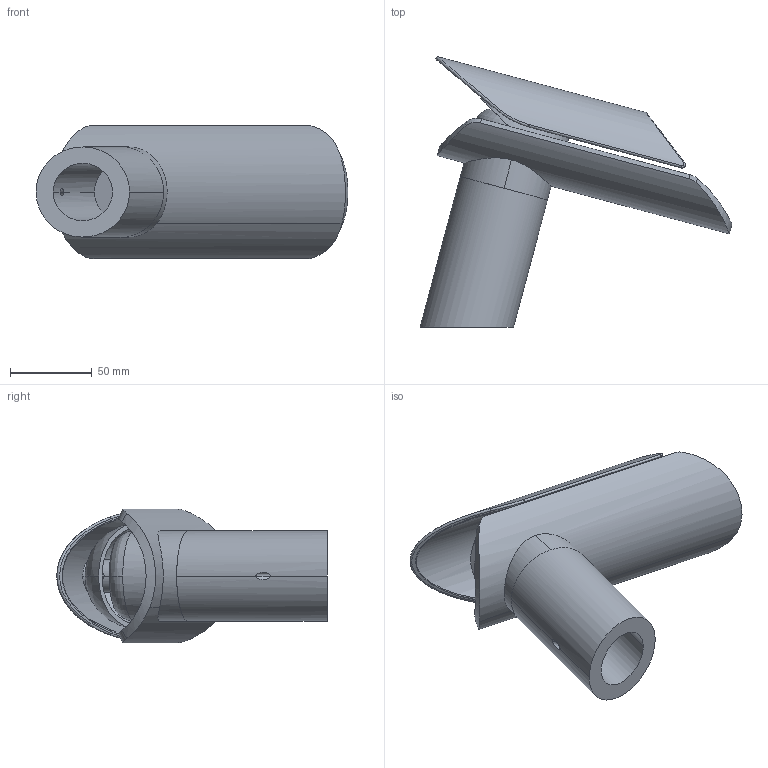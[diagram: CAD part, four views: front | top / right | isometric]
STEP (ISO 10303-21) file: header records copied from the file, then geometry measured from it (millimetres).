
FILE_DESCRIPTION(('CoCreate Modeling STEP Export'),'2;1');
FILE_NAME('73.211.stp','2012-06-04T 9:52:06',(''),(''),'CoCreate Modeling STEP processor for AP214 (Solid Model)','CoCreate Modeling 17.0 01-Apr-2010 (C) Parametric Technology GmbH','');
FILE_SCHEMA(('AUTOMOTIVE_DESIGN { 1 0 10303 214 1 1 1 1 }'));
Length unit declared in the file: millimetre
Products named in the file (2): CORPO
Assembly tree (1 placements, depth 2):
  CORPO
    CORPO
Bounding box: 190.19 x 164.81 x 81.57 mm (x, y, z)
Volume: 349062.1 mm3; surface area: 113789.4 mm2
Topology: 1 solids, 2 shells, 138 faces, 362 edges, 223 vertices
Faces by surface type: cylinder 70, plane 24, bspline 18, cone 12, sphere 8, torus 6
Entity records: 22502 total; most frequent: CARTESIAN_POINT 19752, ORIENTED_EDGE 704, DIRECTION 377, EDGE_CURVE 352, VERTEX_POINT 221, EDGE_LOOP 149, FACE_OUTER_BOUND 138, ADVANCED_FACE 138
